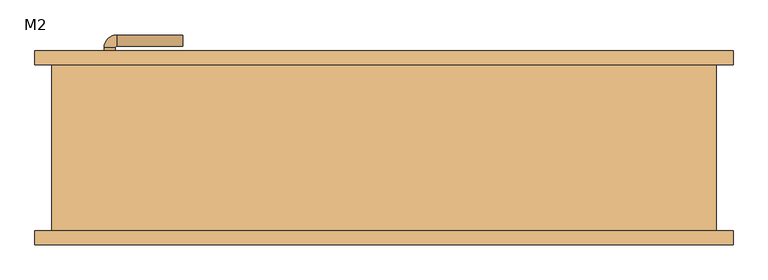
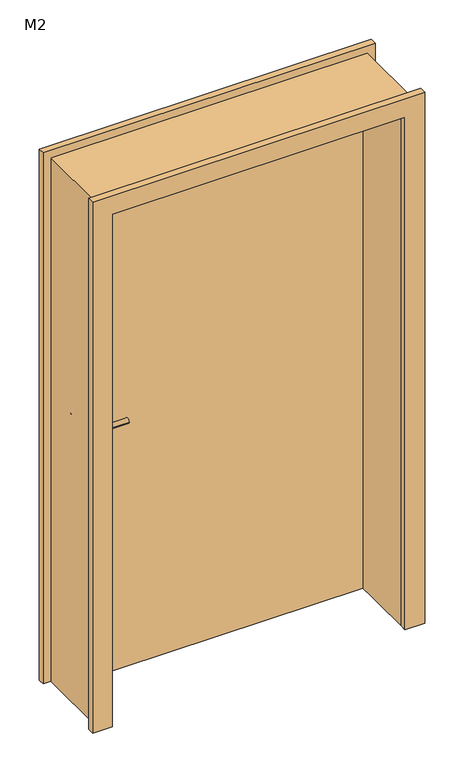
"""IFC4 building model written with IfcOpenShell, lengths in millimetres: door geometry, 单嵌板木门 1 : M2."""

from ifc_helpers import new_model, si_unit, point, frame, frame_2d, origin, origin_with_axes, place, context, project, spatial, polyline, circle_curve, ellipse_curve, trimmed, segment, composite_curve, outline, extrude, source, transform, mapped, element, save
from ifc_brep_helpers import plane_surface, cylinder_surface, revolved_surface, advanced_brep


def m2_dbe33fa1(model_context):
    return source(origin(), model_context, "Body", "SolidModel", [
        extrude(outline(composite_curve([segment(trimmed(circle_curve(frame_2d((900.0, -495.0)), 25.0), [point((900.0, -470.0))], [point((900.0, -520.0))], False, "CARTESIAN"), True, "CONTINUOUS"), segment(trimmed(circle_curve(frame_2d((900.0, -495.0)), 25.0), [point((900.0, -520.0))], [point((900.0, -470.0))], False, "CARTESIAN"), True, "CONTINUOUS")], self_intersect=False)), frame((0.0, 90.0, 0.0), z_axis=(0.0, 1.0, 0.0), x_axis=(0.0, 0.0, 1.0)), (0.0, 0.0, 1.0), 10.0),
        extrude(outline(composite_curve([segment(trimmed(circle_curve(frame_2d((900.0, -495.0)), 25.0), [point((900.0, -470.0))], [point((900.0, -520.0))], False, "CARTESIAN"), True, "CONTINUOUS"), segment(trimmed(circle_curve(frame_2d((900.0, -495.0)), 25.0), [point((900.0, -520.0))], [point((900.0, -470.0))], False, "CARTESIAN"), True, "CONTINUOUS")], self_intersect=False)), frame((0.0, 150.0, 0.0), z_axis=(0.0, 1.0, 0.0), x_axis=(0.0, 0.0, 1.0)), (0.0, 0.0, 1.0), 10.0),
        advanced_brep(
        [(-505.0, 90.0, 1020.0), (-485.0, 90.0, 1020.0), (-485.0, 69.3866449, 1020.0), (-505.0, 69.3866449, 1020.0), (-363.419036, 46.419036, 1020.0), (-363.419036, 66.419036, 1020.0), (-482.0323911, 66.419036, 1020.0), (-482.0323911, 46.419036, 1020.0)],
        [
            (0, 1, circle_curve(frame((-495.0, 90.0, 1020.0), z_axis=(0.0, 1.0, 0.0), x_axis=(1.0, 0.0, 0.0)), 10.0)),
            (1, 0, circle_curve(frame((-495.0, 90.0, 1020.0), z_axis=(0.0, 1.0, 0.0), x_axis=(1.0, 0.0, 0.0)), 10.0)),
            (1, 2),
            (2, 3, circle_curve(frame((-495.0, 69.3866449, 1020.0), z_axis=(0.0, 1.0, 0.0), x_axis=(1.0, 0.0, 0.0)), 10.0)),
            (3, 0),
            (3, 2, circle_curve(frame((-495.0, 69.3866449, 1020.0), z_axis=(0.0, 1.0, 0.0), x_axis=(1.0, 0.0, 0.0)), 10.0)),
            (4, 5, circle_curve(frame((-363.419036, 56.419036, 1020.0), z_axis=(1.0, 0.0, 0.0), x_axis=(0.0, 1.0, 0.0)), 10.0)),
            (5, 4, circle_curve(frame((-363.419036, 56.419036, 1020.0), z_axis=(1.0, 0.0, 0.0), x_axis=(0.0, 1.0, 0.0)), 10.0)),
            (6, 2, circle_curve(frame((-482.0323911, 69.3866449, 1020.0), z_axis=(0.0, 0.0, -1.0), x_axis=(-1.0, 0.0, 0.0)), 2.9676089)),
            (3, 7, circle_curve(frame((-482.0323911, 69.3866449, 1020.0), z_axis=(0.0, 0.0, 1.0), x_axis=(-1.0, 0.0, 0.0)), 22.9676089)),
            (7, 6, circle_curve(frame((-482.0323911, 56.419036, 1020.0), z_axis=(-1.0, 0.0, 0.0), x_axis=(0.0, 1.0, 0.0)), 10.0)),
            (6, 7, circle_curve(frame((-482.0323911, 56.419036, 1020.0), z_axis=(-1.0, 0.0, 0.0), x_axis=(0.0, 1.0, 0.0)), 10.0)),
            (7, 4),
            (5, 6),
        ],
        [
            plane_surface(frame((-495.0, 90.0, 900.0), z_axis=(0.0, 1.0, 0.0), x_axis=(0.0, 0.0, 1.0))),
            cylinder_surface(frame((-495.0, 90.0, 1020.0), z_axis=(0.0, 1.0, 0.0), x_axis=(1.0, 0.0, 0.0)), 10.0),
            plane_surface(frame((-363.419036, 56.419036, 900.0), z_axis=(1.0, 0.0, 0.0), x_axis=(0.0, 0.0, 1.0))),
            revolved_surface(trimmed(ellipse_curve(frame((-495.0, 69.3866449, 1020.0), z_axis=(0.0, 1.0, 0.0), x_axis=(1.0, 0.0, 0.0)), 10.0, 10.0), [point((-505.0, 69.3866449, 1020.0))], [point((-485.0, 69.3866449, 1020.0))], True, "CARTESIAN"), (-482.0323911, 69.3866449, 900.0), (0.0, 0.0, 1.0)),
            revolved_surface(trimmed(ellipse_curve(frame((-495.0, 69.3866449, 1020.0), z_axis=(0.0, 1.0, 0.0), x_axis=(1.0, 0.0, 0.0)), 10.0, 10.0), [point((-485.0, 69.3866449, 1020.0))], [point((-505.0, 69.3866449, 1020.0))], True, "CARTESIAN"), (-482.0323911, 69.3866449, 900.0), (0.0, 0.0, 1.0)),
            cylinder_surface(frame((-482.0323911, 56.419036, 1020.0), z_axis=(-1.0, 0.0, 0.0), x_axis=(0.0, 1.0, 0.0)), 10.0),
        ],
        [
            (0, [[1, 2]]),
            (1, [[-2, 3, 4, 5]]),
            (1, [[-1, -5, 6, -3]]),
            (2, [[7, 8]]),
            (3, [[9, -6, 10, 11]]),
            (4, [[-10, -4, -9, 12]]),
            (5, [[-11, 13, -8, 14]]),
            (5, [[-12, -14, -7, -13]]),
        ],
    ),
        extrude(outline(composite_curve([segment(trimmed(circle_curve(frame_2d((1020.0, -495.0)), 25.0), [point((1020.0, -470.0))], [point((1020.0, -520.0))], False, "CARTESIAN"), True, "CONTINUOUS"), segment(trimmed(circle_curve(frame_2d((1020.0, -495.0)), 25.0), [point((1020.0, -520.0))], [point((1020.0, -470.0))], False, "CARTESIAN"), True, "CONTINUOUS")], self_intersect=False)), frame((0.0, 90.0, 0.0), z_axis=(0.0, 1.0, 0.0), x_axis=(0.0, 0.0, 1.0)), (0.0, 0.0, 1.0), 10.0),
        advanced_brep(
        [(-485.0, 160.0, 1020.0), (-505.0, 160.0, 1020.0), (-485.0, 180.6133551, 1020.0), (-505.0, 180.6133551, 1020.0), (-363.419036, 183.580964, 1020.0), (-363.419036, 203.580964, 1020.0), (-482.0323911, 203.580964, 1020.0), (-482.0323911, 183.580964, 1020.0)],
        [
            (0, 1, circle_curve(frame((-495.0, 160.0, 1020.0), z_axis=(0.0, -1.0, 0.0), x_axis=(-1.0, 0.0, 0.0)), 10.0)),
            (1, 0, circle_curve(frame((-495.0, 160.0, 1020.0), z_axis=(0.0, -1.0, 0.0), x_axis=(-1.0, 0.0, 0.0)), 10.0)),
            (0, 2),
            (2, 3, circle_curve(frame((-495.0, 180.6133551, 1020.0), z_axis=(0.0, -1.0, 0.0), x_axis=(-1.0, 0.0, 0.0)), 10.0)),
            (3, 1),
            (3, 2, circle_curve(frame((-495.0, 180.6133551, 1020.0), z_axis=(0.0, -1.0, 0.0), x_axis=(-1.0, 0.0, 0.0)), 10.0)),
            (4, 5, circle_curve(frame((-363.419036, 193.580964, 1020.0), z_axis=(1.0, 0.0, 0.0), x_axis=(0.0, 1.0, 0.0)), 10.0)),
            (5, 4, circle_curve(frame((-363.419036, 193.580964, 1020.0), z_axis=(1.0, 0.0, 0.0), x_axis=(0.0, 1.0, 0.0)), 10.0)),
            (6, 3, circle_curve(frame((-482.0323911, 180.6133551, 1020.0), z_axis=(0.0, 0.0, 1.0), x_axis=(-1.0, 0.0, 0.0)), 22.9676089)),
            (2, 7, circle_curve(frame((-482.0323911, 180.6133551, 1020.0), z_axis=(0.0, 0.0, -1.0), x_axis=(-1.0, 0.0, 0.0)), 2.9676089)),
            (7, 6, circle_curve(frame((-482.0323911, 193.580964, 1020.0), z_axis=(-1.0, 0.0, 0.0), x_axis=(0.0, 1.0, 0.0)), 10.0)),
            (6, 7, circle_curve(frame((-482.0323911, 193.580964, 1020.0), z_axis=(-1.0, 0.0, 0.0), x_axis=(0.0, 1.0, 0.0)), 10.0)),
            (7, 4),
            (5, 6),
        ],
        [
            plane_surface(frame((-495.0, 160.0, 900.0), z_axis=(0.0, -1.0, 0.0), x_axis=(0.0, 0.0, 1.0))),
            cylinder_surface(frame((-495.0, 160.0, 1020.0), z_axis=(0.0, -1.0, 0.0), x_axis=(-1.0, 0.0, 0.0)), 10.0),
            plane_surface(frame((-363.419036, 193.580964, 900.0), z_axis=(1.0, 0.0, 0.0), x_axis=(0.0, 0.0, 1.0))),
            revolved_surface(trimmed(ellipse_curve(frame((-495.0, 180.6133551, 1020.0), z_axis=(0.0, -1.0, 0.0), x_axis=(-1.0, 0.0, 0.0)), 10.0, 10.0), [point((-485.0, 180.6133551, 1020.0))], [point((-505.0, 180.6133551, 1020.0))], True, "CARTESIAN"), (-482.0323911, 180.6133551, 900.0), (0.0, 0.0, -1.0)),
            revolved_surface(trimmed(ellipse_curve(frame((-495.0, 180.6133551, 1020.0), z_axis=(0.0, -1.0, 0.0), x_axis=(-1.0, 0.0, 0.0)), 10.0, 10.0), [point((-505.0, 180.6133551, 1020.0))], [point((-485.0, 180.6133551, 1020.0))], True, "CARTESIAN"), (-482.0323911, 180.6133551, 900.0), (0.0, 0.0, -1.0)),
            cylinder_surface(frame((-482.0323911, 193.580964, 1020.0), z_axis=(-1.0, 0.0, 0.0), x_axis=(0.0, 1.0, 0.0)), 10.0),
        ],
        [
            (0, [[1, 2]]),
            (1, [[-1, 3, 4, 5]]),
            (1, [[-2, -5, 6, -3]]),
            (2, [[7, 8]]),
            (3, [[9, -4, 10, 11]]),
            (4, [[-10, -6, -9, 12]]),
            (5, [[-11, 13, -8, 14]]),
            (5, [[-12, -14, -7, -13]]),
        ],
    ),
        extrude(outline(composite_curve([segment(trimmed(circle_curve(frame_2d((1020.0, -495.0)), 25.0), [point((1020.0, -470.0))], [point((1020.0, -520.0))], False, "CARTESIAN"), True, "CONTINUOUS"), segment(trimmed(circle_curve(frame_2d((1020.0, -495.0)), 25.0), [point((1020.0, -520.0))], [point((1020.0, -470.0))], False, "CARTESIAN"), True, "CONTINUOUS")], self_intersect=False)), frame((0.0, 150.0, 0.0), z_axis=(0.0, 1.0, 0.0), x_axis=(0.0, 0.0, 1.0)), (0.0, 0.0, 1.0), 10.0),
        extrude(outline(polyline([(0.0, 630.0), (2130.0, 630.0), (2130.0, -630.0), (0.0, -630.0), (0.0, -555.0), (2055.0, -555.0), (2055.0, 555.0), (0.0, 555.0), (0.0, 630.0)])), frame((0.0, 150.0, 0.0), z_axis=(0.0, 1.0, 0.0), x_axis=(0.0, 0.0, 1.0)), (0.0, 0.0, 1.0), 25.0),
        extrude(outline(polyline([(2130.0, 630.0), (2130.0, -630.0), (0.0, -630.0), (0.0, -555.0), (2055.0, -555.0), (2055.0, 555.0), (0.0, 555.0), (0.0, 630.0), (2130.0, 630.0)])), frame((0.0, -175.0, 0.0), z_axis=(0.0, 1.0, 0.0), x_axis=(0.0, 0.0, 1.0)), (0.0, 0.0, 1.0), 25.0),
        extrude(outline(polyline([(555.0, 100.0), (-555.0, 100.0), (-555.0, 150.0), (555.0, 150.0), (555.0, 100.0)])), origin_with_axes(), (0.0, 0.0, 1.0), 2055.0),
        extrude(outline(polyline([(2100.0, -600.0), (0.0, -600.0), (0.0, -555.0), (2055.0, -555.0), (2055.0, 555.0), (0.0, 555.0), (0.0, 600.0), (2100.0, 600.0), (2100.0, -600.0)])), frame((0.0, -150.0, 0.0), z_axis=(0.0, 1.0, 0.0), x_axis=(0.0, 0.0, 1.0)), (0.0, 0.0, 1.0), 300.0),
    ])


if __name__ == "__main__":
    model = new_model("IFC4")
    model_context = context("Model", 3, world=origin())
    ifc_project = project(units=[si_unit("LENGTHUNIT", "METRE", prefix="MILLI")], contexts=[model_context])
    site = spatial("IfcSite", under=ifc_project)
    building = spatial("IfcBuilding", under=site)
    placement = place(None, origin())
    m2_shape = m2_dbe33fa1(model_context)
    element("IfcDoor", 1, ObjectType="单嵌板木门 1 : M2", at=placement, inside=building, context=model_context, shape_type="MappedRepresentation", body=[
        mapped(m2_shape, transform((0.0, 0.0, 0.0), x_axis=(1.0, 0.0, 0.0), y_axis=(0.0, 1.0, 0.0), z_axis=(0.0, 0.0, 1.0))),
    ])
    save(model, "model.ifc")
